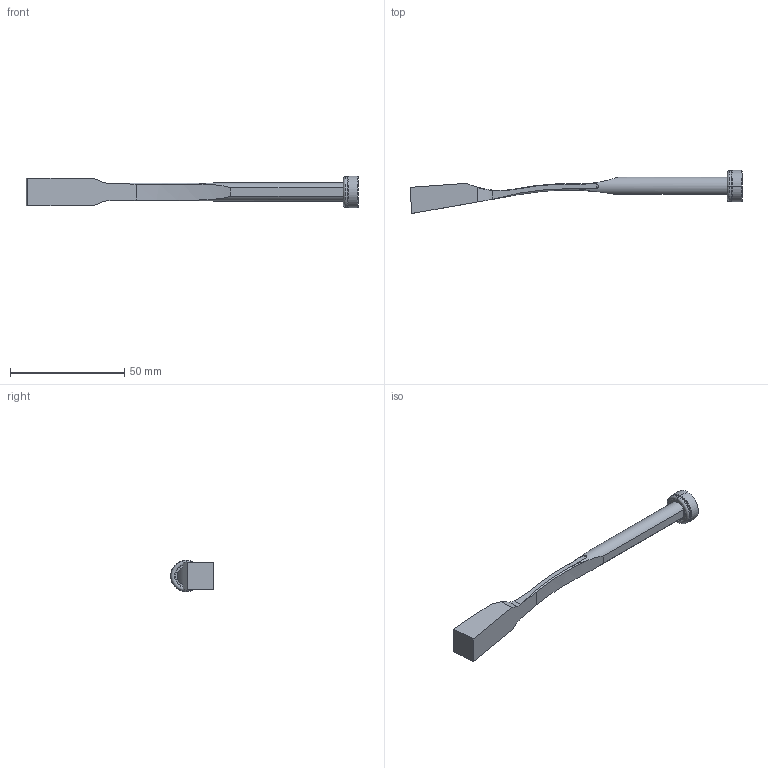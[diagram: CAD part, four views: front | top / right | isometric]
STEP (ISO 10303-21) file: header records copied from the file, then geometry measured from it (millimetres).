
FILE_DESCRIPTION (( 'STEP AP214' ), '1' );
FILE_NAME ('pw081225_ejection.STEP', '2021-07-15T09:16:55', ( '' ), ( '' ), 'SwSTEP 2.0', 'SolidWorks 2019', '' );
FILE_SCHEMA (( 'AUTOMOTIVE_DESIGN' ));
Length unit declared in the file: millimetre
Products named in the file (5): 9PW081225; 3JT9.5X2X13.5; 9FP1406M5; 1DIN7984516_DIN 7984 - M5 x 16 --- 16C; pw081225_ejection
Assembly tree (4 placements, depth 2):
  pw081225_ejection
    9PW081225
    9FP1406M5
    1DIN7984516_DIN 7984 - M5 x 16 --- 16C
    3JT9.5X2X13.5
Bounding box: 145.52 x 18.87 x 13.8 mm (x, y, z)
Volume: 8168.6 mm3; surface area: 5914 mm2
Topology: 4 solids, 4 shells, 445 faces, 1205 edges, 788 vertices
Faces by surface type: bspline 229, plane 119, cylinder 61, cone 20, torus 16
Entity records: 23270 total; most frequent: CARTESIAN_POINT 13975, ORIENTED_EDGE 2402, EDGE_CURVE 1201, DIRECTION 971, B_SPLINE_CURVE_WITH_KNOTS 798, VERTEX_POINT 788, EDGE_LOOP 473, FACE_OUTER_BOUND 445
